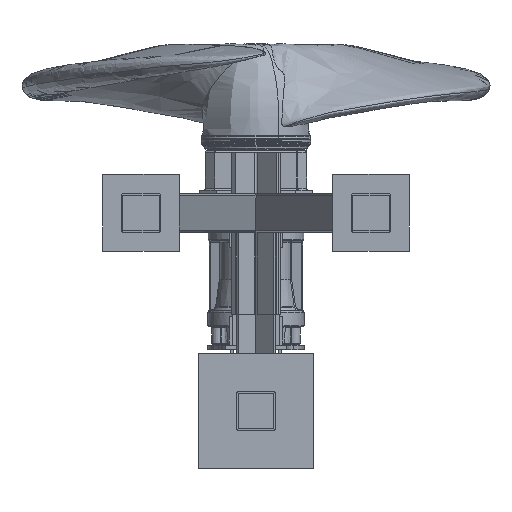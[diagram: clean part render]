
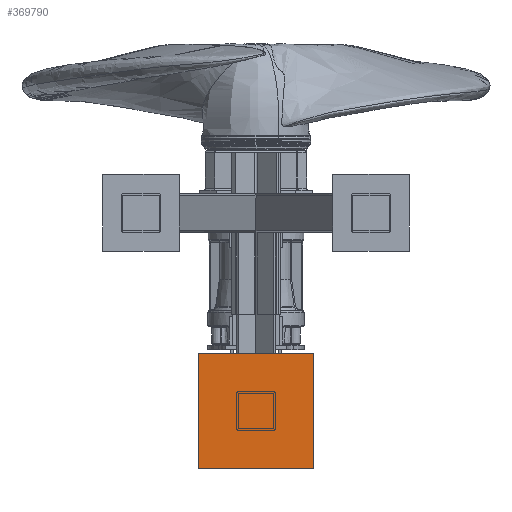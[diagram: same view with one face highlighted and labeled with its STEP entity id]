
A CAD part, front view. The second image highlights one B-rep face of the part: STEP entity #369790.
In plain terms, the highlighted planar face has unit normal (0, -1, 0).
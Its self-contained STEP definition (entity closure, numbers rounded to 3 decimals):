
#2012 = PLANE ( 'NONE',  #360579 ) ;
#5174 = VECTOR ( 'NONE', #210545, 1000. ) ;
#17669 = LINE ( 'NONE', #415494, #218509 ) ;
#19726 = CARTESIAN_POINT ( 'NONE',  ( -150., -10., 150. ) ) ;
#52549 = VERTEX_POINT ( 'NONE', #223386 ) ;
#53199 = EDGE_CURVE ( 'NONE', #72163, #52549, #241226, .T. ) ;
#72163 = VERTEX_POINT ( 'NONE', #236162 ) ;
#79053 = EDGE_LOOP ( 'NONE', ( #267315, #314636, #162344, #119511 ) ) ;
#98098 = CARTESIAN_POINT ( 'NONE',  ( -150., -10., -150. ) ) ;
#118773 = DIRECTION ( 'NONE',  ( -1., 0., 0. ) ) ;
#119511 = ORIENTED_EDGE ( 'NONE', *, *, #258092, .T. ) ;
#127468 = LINE ( 'NONE', #278821, #363521 ) ;
#162344 = ORIENTED_EDGE ( 'NONE', *, *, #187289, .T. ) ;
#163313 = DIRECTION ( 'NONE',  ( 0., -1., 0. ) ) ;
#165971 = VECTOR ( 'NONE', #196180, 1000. ) ;
#175781 = LINE ( 'NONE', #19726, #5174 ) ;
#187289 = EDGE_CURVE ( 'NONE', #267055, #373788, #175781, .T. ) ;
#196180 = DIRECTION ( 'NONE',  ( 0., 0., 1. ) ) ;
#202494 = CARTESIAN_POINT ( 'NONE',  ( -150., -10., 150. ) ) ;
#210545 = DIRECTION ( 'NONE',  ( 0., 0., -1. ) ) ;
#218509 = VECTOR ( 'NONE', #255463, 1000. ) ;
#223386 = CARTESIAN_POINT ( 'NONE',  ( 150., -10., 150. ) ) ;
#236162 = CARTESIAN_POINT ( 'NONE',  ( 150., -10., -150. ) ) ;
#241226 = LINE ( 'NONE', #388495, #165971 ) ;
#255463 = DIRECTION ( 'NONE',  ( 1., 0., 0. ) ) ;
#258092 = EDGE_CURVE ( 'NONE', #373788, #72163, #17669, .T. ) ;
#267055 = VERTEX_POINT ( 'NONE', #202494 ) ;
#267315 = ORIENTED_EDGE ( 'NONE', *, *, #53199, .T. ) ;
#273267 = FACE_OUTER_BOUND ( 'NONE', #79053, .T. ) ;
#278821 = CARTESIAN_POINT ( 'NONE',  ( -150., -10., 150. ) ) ;
#314636 = ORIENTED_EDGE ( 'NONE', *, *, #325586, .T. ) ;
#325586 = EDGE_CURVE ( 'NONE', #52549, #267055, #127468, .T. ) ;
#355605 = CARTESIAN_POINT ( 'NONE',  ( 150., -10., -150. ) ) ;
#360579 = AXIS2_PLACEMENT_3D ( 'NONE', #355605, #163313, #387914 ) ;
#363521 = VECTOR ( 'NONE', #118773, 1000. ) ;
#369790 = ADVANCED_FACE ( 'NONE', ( #273267 ), #2012, .T. ) ;
#373788 = VERTEX_POINT ( 'NONE', #98098 ) ;
#387914 = DIRECTION ( 'NONE',  ( 1., 0., 0. ) ) ;
#388495 = CARTESIAN_POINT ( 'NONE',  ( 150., -10., 150. ) ) ;
#415494 = CARTESIAN_POINT ( 'NONE',  ( -150., -10., -150. ) ) ;
